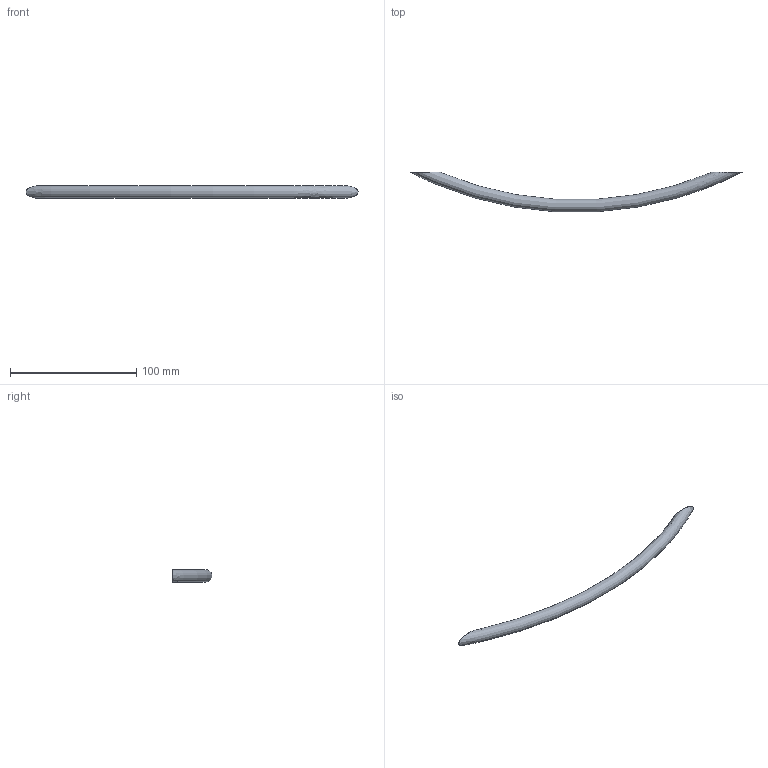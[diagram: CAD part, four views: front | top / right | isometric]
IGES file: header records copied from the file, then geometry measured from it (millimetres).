
Start section: Data from Parasolid IGES Translator 15.0.47, Copyright(c) 2006 Siemens P LM Software. All Rights Reserved.
Global section: file name:  9070504.igs; native system:  By UGS Corp.; preprocessor: XPlus GENERIC/IGES 3.0; author: Noname; organization: Noname; date: 20140122.155214; units: millimetre
Bounding box: 263 x 31.48 x 10 mm (x, y, z)
Surface area: 8313.3 mm2 (no closed solid volume)
Topology: 0 solids, 0 shells, 7 faces, 18 edges, 14 vertices
Faces by surface type: extrusion 4, revolution 3
